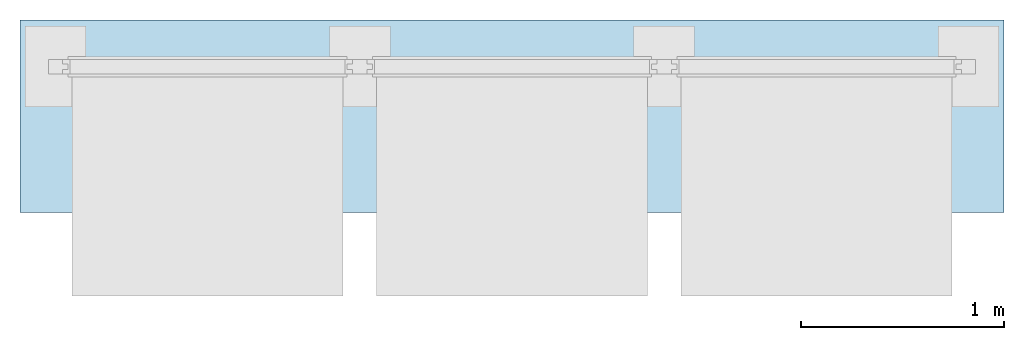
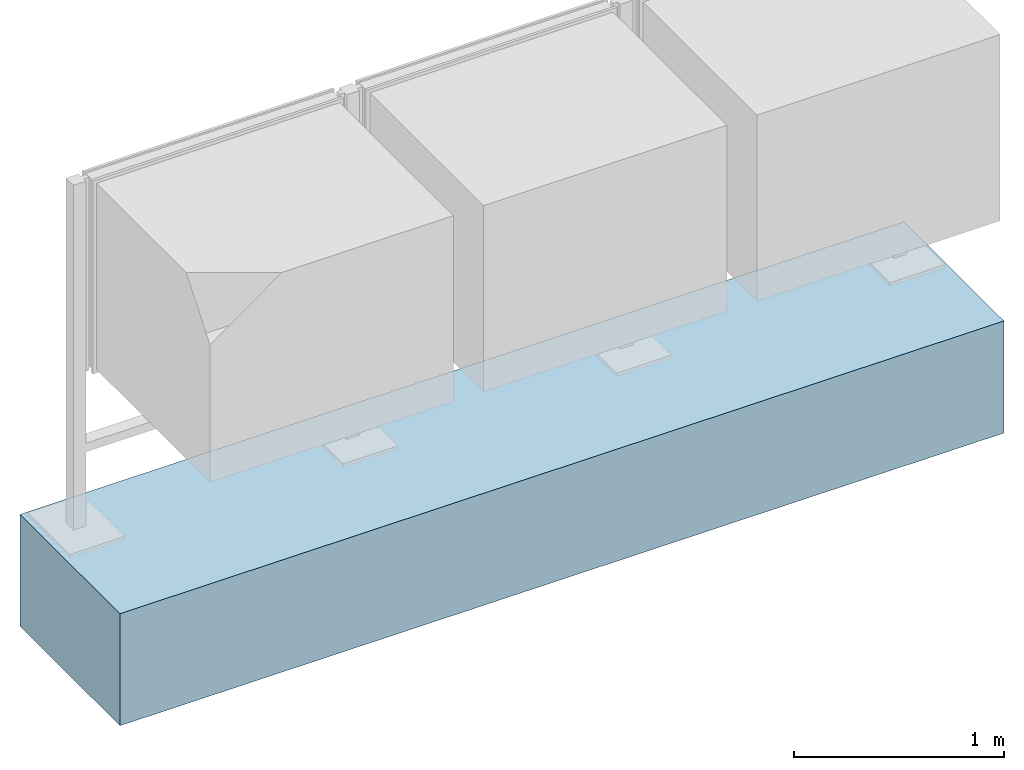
# One storey, incomplete: 1 slab.
"""IFC4 building model written with IfcOpenShell, lengths in metres."""

from ifc_helpers import new_model, entity, si_unit, converted_unit, direction, frame, frame_2d, origin, origin_2d_with_axis, place, context, subcontext, project, spatial, rectangle, extrude, material, type_object, element, save


model = new_model("IFC4")

# Units and contexts
model_context = context("Model", 3, precision=1e-05, world=origin(), true_north=direction((6.123031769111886e-17, 1.0)))
body_context = subcontext(model_context, "Body", "Model", "MODEL_VIEW")
ifc_project = project(units=[si_unit("LENGTHUNIT", "METRE"), converted_unit("PLANEANGLEUNIT", "DEGREE", entity("IfcPlaneAngleMeasure", 0.017453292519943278), si_unit("PLANEANGLEUNIT", "RADIAN"), dimensions=[0, 0, 0, 0, 0, 0, 0]), si_unit("AREAUNIT", "SQUARE_METRE")], contexts=[model_context])

# Site, building, storey
site_placement = place(None, origin())
site = spatial("IfcSite", under=ifc_project, at=site_placement, Name="Default", CompositionType="ELEMENT")
building_placement = place(site_placement, origin())
building = spatial("IfcBuilding", under=site, at=building_placement, CompositionType="ELEMENT")
storey_placement = place(building_placement, origin())
storey = spatial("IfcBuildingStorey", under=building, at=storey_placement, Name="Ebene 0", CompositionType="ELEMENT", Elevation=0.0)

# Slab
ifc_material = material(Name="DB_Magerbeton", Category="DB_Beton")
slab_type = type_object("IfcSlabType", Name="DB_Vitrine_Fundament_dreifeldrig_Windlastzone_1_2:DB_Vitrine_Fundament_dreifeldrig_Windlastzone_1_2", PredefinedType="BASESLAB", material=ifc_material)
slab_placement = place(storey_placement, origin())
element("IfcSlab", 1, at=slab_placement, inside=storey, type_object=slab_type, Name="DB_Vitrine_Fundament_dreifeldrig_Windlastzone_1_2:DB_Vitrine_Fundament_dreifeldrig_Windlastzone_1_2", ObjectType="DB_Vitrine_Fundament_dreifeldrig_Windlastzone_1_2:DB_Vitrine_Fundament_dreifeldrig_Windlastzone_1_2", PredefinedType="BASESLAB", context=body_context, shape_type="SweptSolid", body=[
    extrude(rectangle(XDim=0.9500000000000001, YDim=4.85, at=origin_2d_with_axis()), frame((2.2500000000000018, -0.244999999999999, 0.0), z_axis=(0.0, 0.0, 1.0), x_axis=(0.0, -1.0, 0.0)), (0.0, 0.0, 1.0), 0.04999999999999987),
    extrude(rectangle(XDim=4.85, YDim=0.95, at=frame_2d((0.0, 2.7755575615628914e-17), x_axis=(1.0, 0.0))), frame((2.2500000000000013, -0.2449999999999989, 0.04999999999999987), z_axis=(0.0, 0.0, 1.0), x_axis=(-1.0, 0.0, 0.0)), (0.0, 0.0, 1.0), 0.5999999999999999),
])

save(model, "model.ifc")
